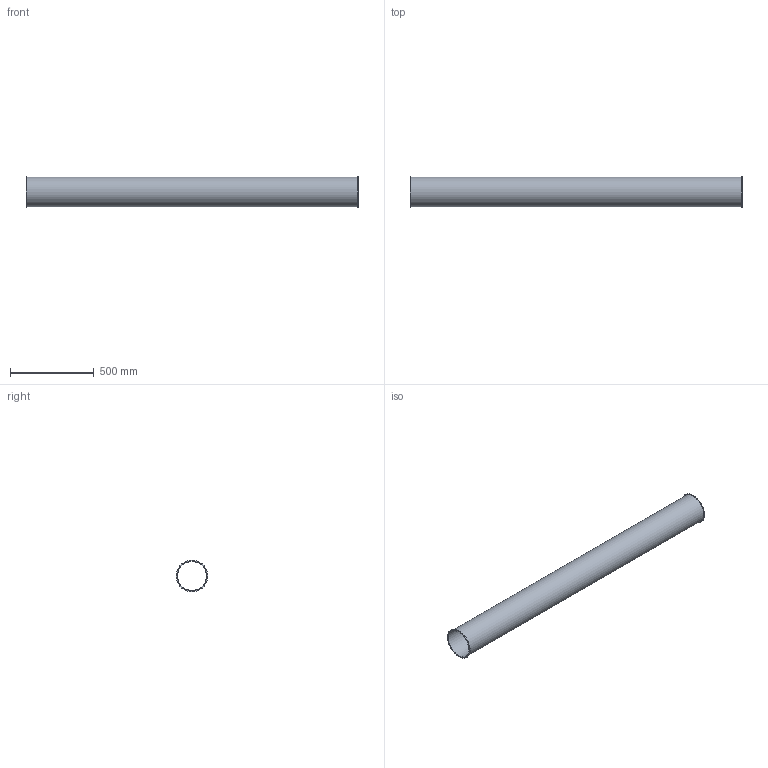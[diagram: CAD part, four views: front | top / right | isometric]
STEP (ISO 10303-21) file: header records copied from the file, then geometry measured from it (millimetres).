
FILE_DESCRIPTION((''),'2;1');
FILE_NAME('U:\Wolfgang\Marcel-3D\fertig\Kapitel 1\1721001.stp','2010-05-31T11:14:05',('TK2'),(''),'Autodesk Inventor 2010','Autodesk Inventor 2010','');
FILE_SCHEMA(('AUTOMOTIVE_DESIGN { 1 0 10303 214 1 1 1 1 }'));
Length unit declared in the file: millimetre
Products named in the file (1): 1721001
Bounding box: 1986 x 190 x 190 mm (x, y, z)
Volume: 2210072.7 mm3; surface area: 2212435.2 mm2
Topology: 1 solids, 1 shells, 8 faces, 12 edges, 8 vertices
Faces by surface type: cylinder 4, plane 4
Full cylindrical faces by diameter (mm): 174 x1, 178 x1, 190 x2
Entity records: 194 total; most frequent: DIRECTION 34, CARTESIAN_POINT 25, AXIS2_PLACEMENT_3D 17, ORIENTED_EDGE 16, EDGE_LOOP 16, VERTEX_POINT 8, CIRCLE 8, EDGE_CURVE 8
